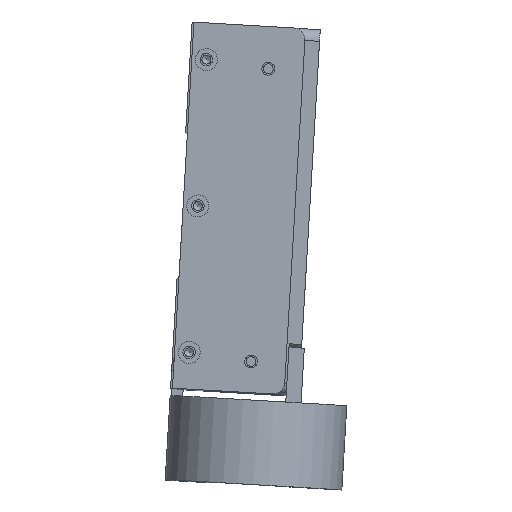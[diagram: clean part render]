
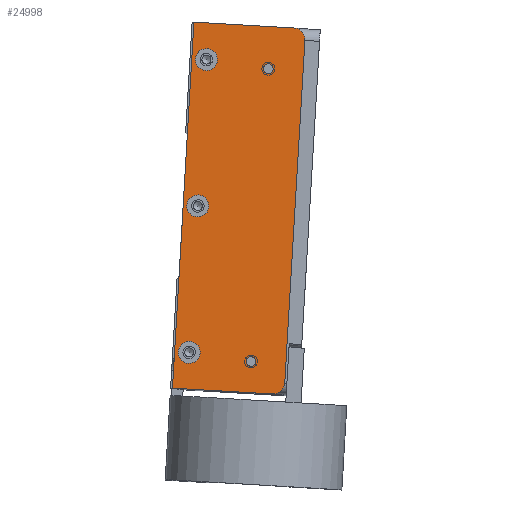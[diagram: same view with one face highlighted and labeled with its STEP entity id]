
A CAD part, top view. The second image highlights one B-rep face of the part: STEP entity #24998.
In plain terms, the highlighted planar face has unit normal (0, 0, 1) as drawn and (0, -1, 0) by its records, which use the part's own axes.
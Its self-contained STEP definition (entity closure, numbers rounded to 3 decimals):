
#672=PLANE($,#26934);
#1576=FACE_BOUND($,#4104,.T.);
#1577=FACE_BOUND($,#4105,.T.);
#1578=FACE_BOUND($,#4106,.T.);
#1579=FACE_BOUND($,#4107,.T.);
#1580=FACE_BOUND($,#4108,.T.);
#1581=FACE_BOUND($,#4109,.T.);
#4104=EDGE_LOOP($,(#19431));
#4105=EDGE_LOOP($,(#19432));
#4106=EDGE_LOOP($,(#19433));
#4107=EDGE_LOOP($,(#19434));
#4108=EDGE_LOOP($,(#19435));
#4109=EDGE_LOOP($,(#19436,#19437,#19438,#19439,#19440,#19441));
#6066=LINE($,#38691,#8453);
#6069=LINE($,#38707,#8456);
#6070=LINE($,#38709,#8457);
#6071=LINE($,#38711,#8458);
#8453=VECTOR($,#31020,93.65);
#8456=VECTOR($,#31035,27.325);
#8457=VECTOR($,#31036,100.);
#8458=VECTOR($,#31037,27.325);
#10673=CIRCLE($,#26931,3.175);
#10675=CIRCLE($,#26935,3.);
#10676=CIRCLE($,#26936,3.);
#10677=CIRCLE($,#26937,3.);
#10678=CIRCLE($,#26938,1.321);
#10679=CIRCLE($,#26939,1.321);
#10680=CIRCLE($,#26940,3.175);
#11985=VERTEX_POINT($,#38681);
#11986=VERTEX_POINT($,#38682);
#11989=VERTEX_POINT($,#38690);
#11991=VERTEX_POINT($,#38696);
#11992=VERTEX_POINT($,#38698);
#11993=VERTEX_POINT($,#38700);
#11994=VERTEX_POINT($,#38702);
#11995=VERTEX_POINT($,#38704);
#11996=VERTEX_POINT($,#38706);
#11997=VERTEX_POINT($,#38708);
#11998=VERTEX_POINT($,#38710);
#14774=EDGE_CURVE($,#11985,#11986,#10673,.T.);
#14778=EDGE_CURVE($,#11986,#11989,#6066,.T.);
#14781=EDGE_CURVE($,#11991,#11991,#10675,.T.);
#14782=EDGE_CURVE($,#11992,#11992,#10676,.T.);
#14783=EDGE_CURVE($,#11993,#11993,#10677,.T.);
#14784=EDGE_CURVE($,#11994,#11994,#10678,.T.);
#14785=EDGE_CURVE($,#11995,#11995,#10679,.T.);
#14786=EDGE_CURVE($,#11985,#11996,#6069,.T.);
#14787=EDGE_CURVE($,#11996,#11997,#6070,.T.);
#14788=EDGE_CURVE($,#11997,#11998,#6071,.T.);
#14789=EDGE_CURVE($,#11989,#11998,#10680,.T.);
#19431=ORIENTED_EDGE($,*,*,#14781,.T.);
#19432=ORIENTED_EDGE($,*,*,#14782,.T.);
#19433=ORIENTED_EDGE($,*,*,#14783,.T.);
#19434=ORIENTED_EDGE($,*,*,#14784,.T.);
#19435=ORIENTED_EDGE($,*,*,#14785,.T.);
#19436=ORIENTED_EDGE($,*,*,#14774,.F.);
#19437=ORIENTED_EDGE($,*,*,#14786,.T.);
#19438=ORIENTED_EDGE($,*,*,#14787,.T.);
#19439=ORIENTED_EDGE($,*,*,#14788,.T.);
#19440=ORIENTED_EDGE($,*,*,#14789,.F.);
#19441=ORIENTED_EDGE($,*,*,#14778,.F.);
#24998=ADVANCED_FACE($,(#1576,#1577,#1578,#1579,#1580,#1581),#672,.T.);
#26931=AXIS2_PLACEMENT_3D($,#38683,#31012,#31013);
#26934=AXIS2_PLACEMENT_3D($,#38695,#31023,#31024);
#26935=AXIS2_PLACEMENT_3D($,#38697,#31025,#31026);
#26936=AXIS2_PLACEMENT_3D($,#38699,#31027,#31028);
#26937=AXIS2_PLACEMENT_3D($,#38701,#31029,#31030);
#26938=AXIS2_PLACEMENT_3D($,#38703,#31031,#31032);
#26939=AXIS2_PLACEMENT_3D($,#38705,#31033,#31034);
#26940=AXIS2_PLACEMENT_3D($,#38712,#31038,#31039);
#31012=DIRECTION('center_axis',(0.,1.,0.));
#31013=DIRECTION('ref_axis',(0.707,0.,0.707));
#31020=DIRECTION($,(0.,0.,-1.));
#31023=DIRECTION('center_axis',(0.,-1.,0.));
#31024=DIRECTION('ref_axis',(0.,0.,-1.));
#31025=DIRECTION('center_axis',(0.,1.,0.));
#31026=DIRECTION('ref_axis',(1.,0.,0.));
#31027=DIRECTION('center_axis',(0.,1.,0.));
#31028=DIRECTION('ref_axis',(1.,0.,0.));
#31029=DIRECTION('center_axis',(0.,1.,0.));
#31030=DIRECTION('ref_axis',(1.,0.,0.));
#31031=DIRECTION('center_axis',(0.,1.,0.));
#31032=DIRECTION('ref_axis',(1.,0.,0.));
#31033=DIRECTION('center_axis',(0.,1.,0.));
#31034=DIRECTION('ref_axis',(1.,0.,0.));
#31035=DIRECTION($,(-1.,0.,0.));
#31036=DIRECTION($,(0.,0.,-1.));
#31037=DIRECTION($,(1.,0.,0.));
#31038=DIRECTION('center_axis',(0.,1.,0.));
#31039=DIRECTION('ref_axis',(0.707,0.,-0.707));
#38681=CARTESIAN_POINT('',(12.075,-2.5,50.));
#38682=CARTESIAN_POINT('',(15.25,-2.5,46.825));
#38683=CARTESIAN_POINT('Origin',(12.075,-2.5,46.825));
#38690=CARTESIAN_POINT('',(15.25,-2.5,-46.825));
#38691=CARTESIAN_POINT($,(15.25,-2.5,0.));
#38695=CARTESIAN_POINT('Origin',(15.25,-2.5,0.));
#38696=CARTESIAN_POINT('',(-8.25,-2.5,0.));
#38697=CARTESIAN_POINT('Origin',(-11.25,-2.5,0.));
#38698=CARTESIAN_POINT('',(-8.25,-2.5,40.));
#38699=CARTESIAN_POINT('Origin',(-11.25,-2.5,40.));
#38700=CARTESIAN_POINT('',(-8.25,-2.5,-40.));
#38701=CARTESIAN_POINT('Origin',(-11.25,-2.5,-40.));
#38702=CARTESIAN_POINT('',(7.071,-2.5,38.5));
#38703=CARTESIAN_POINT('Origin',(5.75,-2.5,38.5));
#38704=CARTESIAN_POINT('',(7.037,-2.5,-41.5));
#38705=CARTESIAN_POINT('Origin',(5.716,-2.5,-41.5));
#38706=CARTESIAN_POINT('',(-15.25,-2.5,50.));
#38707=CARTESIAN_POINT($,(15.25,-2.5,50.));
#38708=CARTESIAN_POINT('',(-15.25,-2.5,-50.));
#38709=CARTESIAN_POINT($,(-15.25,-2.5,0.));
#38710=CARTESIAN_POINT('',(12.075,-2.5,-50.));
#38711=CARTESIAN_POINT($,(15.25,-2.5,-50.));
#38712=CARTESIAN_POINT('Origin',(12.075,-2.5,-46.825));
